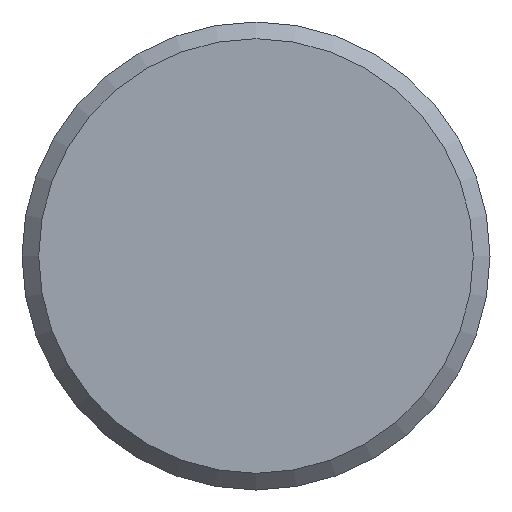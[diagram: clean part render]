
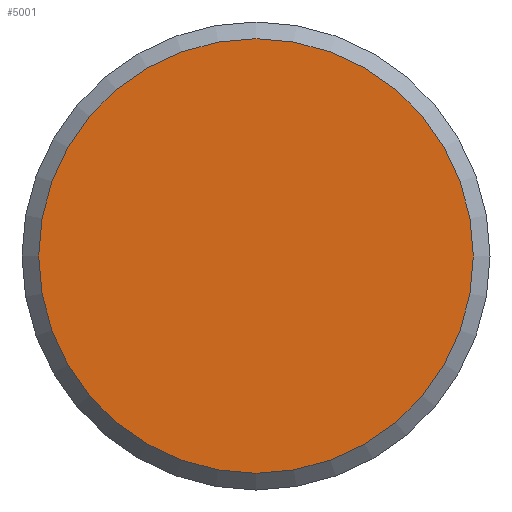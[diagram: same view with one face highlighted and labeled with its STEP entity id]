
A CAD part, left-side view. The second image highlights one B-rep face of the part: STEP entity #5001.
In plain terms, the highlighted planar face has unit normal (-1, 0, 0).
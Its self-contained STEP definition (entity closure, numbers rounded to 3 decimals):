
#1770=PLANE('',#4604);
#1865=ORIENTED_EDGE('',*,*,#2540,.F.);
#2200=CIRCLE('',#4603,6.5);
#2370=VERTEX_POINT('',#4091);
#2540=EDGE_CURVE('',#2370,#2370,#2200,.T.);
#2715=EDGE_LOOP('',(#1865));
#3055=FACE_BOUND('',#2715,.T.);
#3404=DIRECTION('',(1.,0.,0.));
#3405=DIRECTION('',(0.,-6.5,0.));
#3406=DIRECTION('',(-1.,0.,0.));
#3407=DIRECTION('',(0.,1.,0.));
#4091=CARTESIAN_POINT('',(44.579,175.897,0.));
#4092=CARTESIAN_POINT('',(44.579,182.397,0.));
#4093=CARTESIAN_POINT('',(44.579,182.397,0.));
#4603=AXIS2_PLACEMENT_3D('',#4092,#3404,#3405);
#4604=AXIS2_PLACEMENT_3D('',#4093,#3406,#3407);
#5001=ADVANCED_FACE('',(#3055),#1770,.T.);
